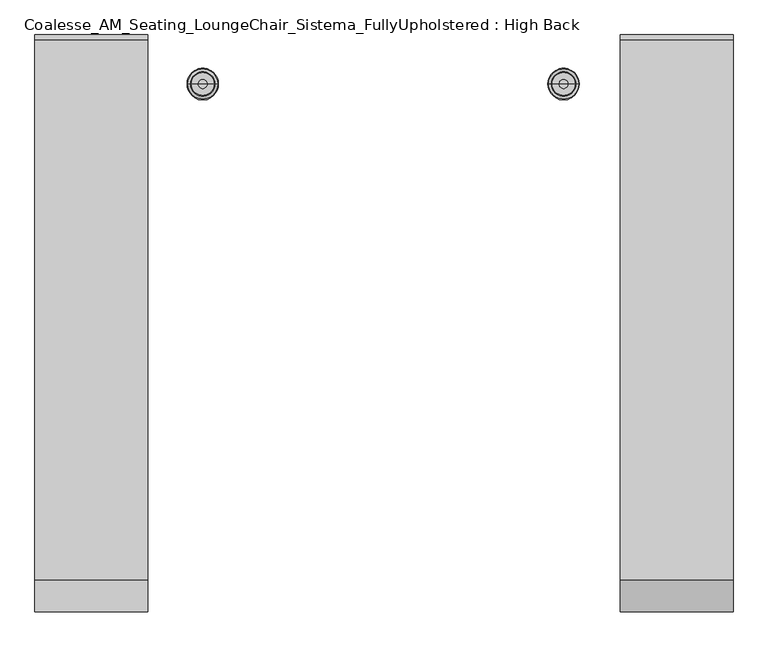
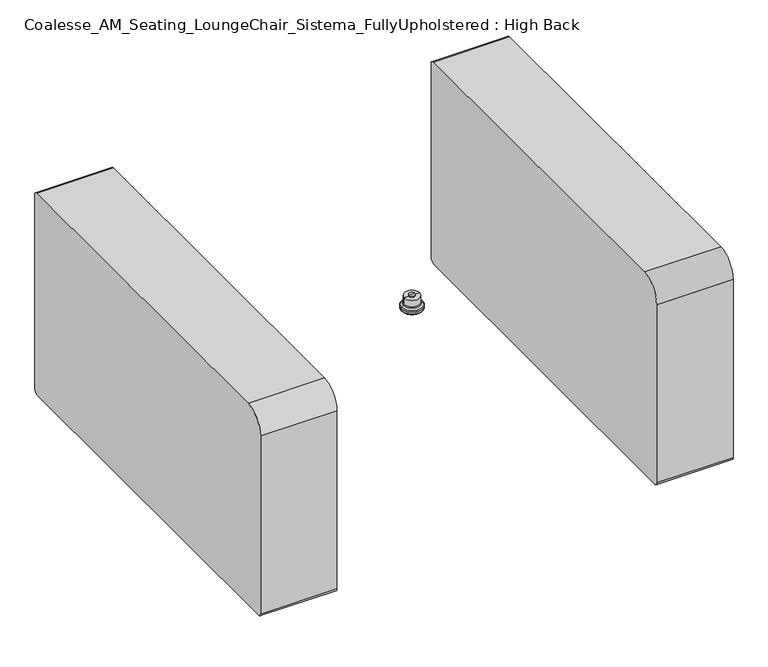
"""IFC4 building model written with IfcOpenShell, lengths in millimetres: furniture geometry, Coalesse_AM_Seating_LoungeChair_Sistema_FullyUpholstered : High Back."""

from ifc_helpers import new_model, si_unit, point, frame, frame_2d, origin, place, context, project, spatial, polyline, circle_curve, ellipse_curve, trimmed, segment, composite_curve, outline, extrude, source, transform, mapped, element, save
from ifc_brep_helpers import plane_surface, cylinder_surface, revolved_surface, advanced_brep


def coalesse_am_seating_loungechair_sistema_fullyupholstered_27f036f4(model_context):
    return source(origin(), model_context, "Body", "SolidModel", [
        advanced_brep(
        [(439.713605, 376.5697714, 32.0111214), (439.713605, 376.5697714, 16.5557542), (475.9872145, 376.5697714, 16.5557542), (475.9872145, 376.5697714, 32.0111214), (438.4199245, 376.5697714, 14.0167632), (477.2808951, 376.5697714, 14.0167632), (434.0479382, 376.5697714, 10.8824382), (481.6528813, 376.5697714, 10.8824382), (432.8617219, 376.5697714, 8.4680454), (482.8390977, 376.5697714, 8.4680454), (432.8617219, 376.5697714, 3.1081764), (482.8390977, 376.5697714, 3.1081764), (436.4580964, 376.5697714, 0.0), (479.2427231, 376.5697714, 0.0), (457.8504098, 376.5697714, 0.0), (457.8504098, 376.5697714, 34.4679682), (450.7356308, 376.5697714, 34.4679682), (464.9651888, 376.5697714, 34.4679682), (450.7356308, 376.5697714, 32.0111214), (464.9651888, 376.5697714, 32.0111214)],
        [
            (0, 1),
            (1, 2, circle_curve(frame((457.8504098, 376.5697714, 16.5557542), z_axis=(0.0, 0.0, 1.0), x_axis=(1.0, 0.0, 0.0)), 18.1368048)),
            (2, 3),
            (3, 0, circle_curve(frame((457.8504098, 376.5697714, 32.0111214), z_axis=(0.0, 0.0, -1.0), x_axis=(1.0, 0.0, 0.0)), 18.1368048)),
            (2, 1, circle_curve(frame((457.8504098, 376.5697714, 16.5557542), z_axis=(0.0, 0.0, 1.0), x_axis=(1.0, 0.0, 0.0)), 18.1368048)),
            (0, 3, circle_curve(frame((457.8504098, 376.5697714, 32.0111214), z_axis=(0.0, 0.0, -1.0), x_axis=(1.0, 0.0, 0.0)), 18.1368048)),
            (1, 4),
            (4, 5, circle_curve(frame((457.8504098, 376.5697714, 14.0167632), z_axis=(0.0, 0.0, 1.0), x_axis=(1.0, 0.0, 0.0)), 19.4304853)),
            (5, 2),
            (5, 4, circle_curve(frame((457.8504098, 376.5697714, 14.0167632), z_axis=(0.0, 0.0, 1.0), x_axis=(1.0, 0.0, 0.0)), 19.4304853)),
            (4, 6, circle_curve(frame((480.4018948, 376.5697714, -49.1591113), z_axis=(0.0, -1.0, 0.0), x_axis=(1.0, 0.0, 0.0)), 75.8529957)),
            (6, 7, circle_curve(frame((457.8504098, 376.5697714, 10.8824382), z_axis=(0.0, 0.0, 1.0), x_axis=(1.0, 0.0, 0.0)), 23.8024715)),
            (7, 5, circle_curve(frame((435.2989247, 376.5697714, -49.1591113), z_axis=(0.0, -1.0, 0.0), x_axis=(-1.0, 0.0, 0.0)), 75.8529957)),
            (7, 6, circle_curve(frame((457.8504098, 376.5697714, 10.8824382), z_axis=(0.0, 0.0, 1.0), x_axis=(1.0, 0.0, 0.0)), 23.8024715)),
            (6, 8, circle_curve(frame((435.9119251, 376.5697714, 8.4680454), z_axis=(0.0, -1.0, 0.0), x_axis=(1.0, 0.0, 0.0)), 3.0502032)),
            (8, 9, circle_curve(frame((457.8504098, 376.5697714, 8.4680454), z_axis=(0.0, 0.0, 1.0), x_axis=(1.0, 0.0, 0.0)), 24.9886879)),
            (9, 7, circle_curve(frame((479.7888944, 376.5697714, 8.4680454), z_axis=(0.0, -1.0, 0.0), x_axis=(-1.0, 0.0, 0.0)), 3.0502032)),
            (9, 8, circle_curve(frame((457.8504098, 376.5697714, 8.4680454), z_axis=(0.0, 0.0, 1.0), x_axis=(1.0, 0.0, 0.0)), 24.9886879)),
            (8, 10),
            (10, 11, circle_curve(frame((457.8504098, 376.5697714, 3.1081764), z_axis=(0.0, 0.0, 1.0), x_axis=(1.0, 0.0, 0.0)), 24.9886879)),
            (11, 9),
            (11, 10, circle_curve(frame((457.8504098, 376.5697714, 3.1081764), z_axis=(0.0, 0.0, 1.0), x_axis=(1.0, 0.0, 0.0)), 24.9886879)),
            (10, 12, circle_curve(frame((436.4580964, 376.5697714, 3.634715), z_axis=(0.0, -1.0, 0.0), x_axis=(1.0, 0.0, 0.0)), 3.634715)),
            (12, 13, circle_curve(frame((457.8504098, 376.5697714, 0.0), z_axis=(0.0, 0.0, 1.0), x_axis=(1.0, 0.0, 0.0)), 21.3923133)),
            (13, 11, circle_curve(frame((479.2427231, 376.5697714, 3.634715), z_axis=(0.0, -1.0, 0.0), x_axis=(-1.0, 0.0, 0.0)), 3.634715)),
            (13, 12, circle_curve(frame((457.8504098, 376.5697714, 0.0), z_axis=(0.0, 0.0, 1.0), x_axis=(1.0, 0.0, 0.0)), 21.3923133)),
            (12, 14),
            (14, 13),
            (15, 16),
            (16, 17, circle_curve(frame((457.8504098, 376.5697714, 34.4679682), z_axis=(0.0, 0.0, 1.0), x_axis=(1.0, 0.0, 0.0)), 7.114779)),
            (17, 15),
            (17, 16, circle_curve(frame((457.8504098, 376.5697714, 34.4679682), z_axis=(0.0, 0.0, 1.0), x_axis=(1.0, 0.0, 0.0)), 7.114779)),
            (16, 18),
            (18, 19, circle_curve(frame((457.8504098, 376.5697714, 32.0111214), z_axis=(0.0, 0.0, 1.0), x_axis=(1.0, 0.0, 0.0)), 7.114779)),
            (19, 17),
            (19, 18, circle_curve(frame((457.8504098, 376.5697714, 32.0111214), z_axis=(0.0, 0.0, 1.0), x_axis=(1.0, 0.0, 0.0)), 7.114779)),
            (18, 0),
            (3, 19),
        ],
        [
            cylinder_surface(frame((457.8504098, 376.5697714, 22.0491407), z_axis=(0.0, 0.0, 1.0), x_axis=(1.0, 0.0, 0.0)), 18.1368048),
            revolved_surface(polyline([(477.2808951, 376.5697714, 14.0167632), (475.9872145, 376.5697714, 16.5557542)]), (457.8504098, 376.5697714, 22.0491407), (0.0, 0.0, 1.0)),
            revolved_surface(trimmed(ellipse_curve(frame((435.2989247, 376.5697714, -49.1591113), z_axis=(0.0, -1.0, 0.0), x_axis=(-1.0, 0.0, 0.0)), 75.8529957, 75.8529957), [point((481.6528813, 376.5697714, 10.8824382))], [point((477.2808951, 376.5697714, 14.0167632))], True, "CARTESIAN"), (457.8504098, 376.5697714, 22.0491407), (0.0, 0.0, 1.0)),
            revolved_surface(trimmed(ellipse_curve(frame((479.7888944, 376.5697714, 8.4680454), z_axis=(0.0, -1.0, 0.0), x_axis=(-1.0, 0.0, 0.0)), 3.0502032, 3.0502032), [point((482.8390977, 376.5697714, 8.4680454))], [point((481.6528813, 376.5697714, 10.8824382))], True, "CARTESIAN"), (457.8504098, 376.5697714, 22.0491407), (0.0, 0.0, 1.0)),
            cylinder_surface(frame((457.8504098, 376.5697714, 22.0491407), z_axis=(0.0, 0.0, 1.0), x_axis=(1.0, 0.0, 0.0)), 24.9886879),
            revolved_surface(trimmed(ellipse_curve(frame((479.2427231, 376.5697714, 3.634715), z_axis=(0.0, -1.0, 0.0), x_axis=(-1.0, 0.0, 0.0)), 3.634715, 3.634715), [point((479.2427231, 376.5697714, 0.0))], [point((482.8390977, 376.5697714, 3.1081764))], True, "CARTESIAN"), (457.8504098, 376.5697714, 22.0491407), (0.0, 0.0, 1.0)),
            plane_surface(frame((457.8504098, 376.5697714, 0.0), z_axis=(0.0, 0.0, -1.0), x_axis=(1.0, 0.0, 0.0))),
            plane_surface(frame((457.8504098, 376.5697714, 34.4679682), z_axis=(0.0, 0.0, 1.0), x_axis=(1.0, 0.0, 0.0))),
            cylinder_surface(frame((457.8504098, 376.5697714, 22.0491407), z_axis=(0.0, 0.0, 1.0), x_axis=(1.0, 0.0, 0.0)), 7.114779),
            plane_surface(frame((457.8504098, 376.5697714, 32.0111214), z_axis=(0.0, 0.0, 1.0), x_axis=(1.0, 0.0, 0.0))),
        ],
        [
            (0, [[1, 2, 3, 4]]),
            (0, [[-3, 5, -1, 6]]),
            (1, [[7, 8, 9, -2]]),
            (1, [[-9, 10, -7, -5]]),
            (2, [[11, 12, 13, -8]]),
            (2, [[-13, 14, -11, -10]]),
            (3, [[15, 16, 17, -12]]),
            (3, [[-17, 18, -15, -14]]),
            (4, [[19, 20, 21, -16]]),
            (4, [[-21, 22, -19, -18]]),
            (5, [[23, 24, 25, -20]]),
            (5, [[-25, 26, -23, -22]]),
            (6, [[27, 28, -24]]),
            (6, [[-28, -27, -26]]),
            (7, [[29, 30, 31]]),
            (7, [[-31, 32, -29]]),
            (8, [[33, 34, 35, -30]]),
            (8, [[-35, 36, -33, -32]]),
            (9, [[37, -4, 38, -34]]),
            (9, [[-38, -6, -37, -36]]),
        ],
    ),
        advanced_brep(
        [(439.713605, -359.8207817, 16.5557542), (439.713605, -359.8207817, 32.0111214), (475.9872145, -359.8207817, 32.0111214), (475.9872145, -359.8207817, 16.5557542), (438.4199245, -359.8207817, 14.0167632), (477.2808951, -359.8207817, 14.0167632), (434.0479382, -359.8207817, 10.8824382), (481.6528813, -359.8207817, 10.8824382), (432.8617219, -359.8207817, 8.4680454), (482.8390977, -359.8207817, 8.4680454), (432.8617219, -359.8207817, 3.1081764), (482.8390977, -359.8207817, 3.1081764), (436.4580964, -359.8207817, 0.0), (479.2427231, -359.8207817, 0.0), (457.8504098, -359.8207817, 0.0), (450.7356308, -359.8207817, 34.4679682), (457.8504098, -359.8207817, 34.4679682), (464.9651888, -359.8207817, 34.4679682), (450.7356308, -359.8207817, 32.0111214), (464.9651888, -359.8207817, 32.0111214)],
        [
            (0, 1),
            (1, 2, circle_curve(frame((457.8504098, -359.8207817, 32.0111214), z_axis=(0.0, 0.0, -1.0), x_axis=(1.0, 0.0, 0.0)), 18.1368048)),
            (2, 3),
            (3, 0, circle_curve(frame((457.8504098, -359.8207817, 16.5557542), z_axis=(0.0, 0.0, 1.0), x_axis=(1.0, 0.0, 0.0)), 18.1368048)),
            (2, 1, circle_curve(frame((457.8504098, -359.8207817, 32.0111214), z_axis=(0.0, 0.0, -1.0), x_axis=(1.0, 0.0, 0.0)), 18.1368048)),
            (0, 3, circle_curve(frame((457.8504098, -359.8207817, 16.5557542), z_axis=(0.0, 0.0, 1.0), x_axis=(1.0, 0.0, 0.0)), 18.1368048)),
            (4, 0),
            (3, 5),
            (5, 4, circle_curve(frame((457.8504098, -359.8207817, 14.0167632), z_axis=(0.0, 0.0, 1.0), x_axis=(1.0, 0.0, 0.0)), 19.4304853)),
            (4, 5, circle_curve(frame((457.8504098, -359.8207817, 14.0167632), z_axis=(0.0, 0.0, 1.0), x_axis=(1.0, 0.0, 0.0)), 19.4304853)),
            (6, 4, circle_curve(frame((480.4018948, -359.8207817, -49.1591113), z_axis=(0.0, 1.0, 0.0), x_axis=(1.0, 0.0, 0.0)), 75.8529957)),
            (5, 7, circle_curve(frame((435.2989247, -359.8207817, -49.1591113), z_axis=(0.0, 1.0, 0.0), x_axis=(-1.0, 0.0, 0.0)), 75.8529957)),
            (7, 6, circle_curve(frame((457.8504098, -359.8207817, 10.8824382), z_axis=(0.0, 0.0, 1.0), x_axis=(1.0, 0.0, 0.0)), 23.8024715)),
            (6, 7, circle_curve(frame((457.8504098, -359.8207817, 10.8824382), z_axis=(0.0, 0.0, 1.0), x_axis=(1.0, 0.0, 0.0)), 23.8024715)),
            (8, 6, circle_curve(frame((435.9119251, -359.8207817, 8.4680454), z_axis=(0.0, 1.0, 0.0), x_axis=(1.0, 0.0, 0.0)), 3.0502032)),
            (7, 9, circle_curve(frame((479.7888944, -359.8207817, 8.4680454), z_axis=(0.0, 1.0, 0.0), x_axis=(-1.0, 0.0, 0.0)), 3.0502032)),
            (9, 8, circle_curve(frame((457.8504098, -359.8207817, 8.4680454), z_axis=(0.0, 0.0, 1.0), x_axis=(1.0, 0.0, 0.0)), 24.9886879)),
            (8, 9, circle_curve(frame((457.8504098, -359.8207817, 8.4680454), z_axis=(0.0, 0.0, 1.0), x_axis=(1.0, 0.0, 0.0)), 24.9886879)),
            (10, 8),
            (9, 11),
            (11, 10, circle_curve(frame((457.8504098, -359.8207817, 3.1081764), z_axis=(0.0, 0.0, 1.0), x_axis=(1.0, 0.0, 0.0)), 24.9886879)),
            (10, 11, circle_curve(frame((457.8504098, -359.8207817, 3.1081764), z_axis=(0.0, 0.0, 1.0), x_axis=(1.0, 0.0, 0.0)), 24.9886879)),
            (12, 10, circle_curve(frame((436.4580964, -359.8207817, 3.634715), z_axis=(0.0, 1.0, 0.0), x_axis=(1.0, 0.0, 0.0)), 3.634715)),
            (11, 13, circle_curve(frame((479.2427231, -359.8207817, 3.634715), z_axis=(0.0, 1.0, 0.0), x_axis=(-1.0, 0.0, 0.0)), 3.634715)),
            (13, 12, circle_curve(frame((457.8504098, -359.8207817, 0.0), z_axis=(0.0, 0.0, 1.0), x_axis=(1.0, 0.0, 0.0)), 21.3923133)),
            (12, 13, circle_curve(frame((457.8504098, -359.8207817, 0.0), z_axis=(0.0, 0.0, 1.0), x_axis=(1.0, 0.0, 0.0)), 21.3923133)),
            (14, 12),
            (13, 14),
            (15, 16),
            (16, 17),
            (17, 15, circle_curve(frame((457.8504098, -359.8207817, 34.4679682), z_axis=(0.0, 0.0, 1.0), x_axis=(1.0, 0.0, 0.0)), 7.114779)),
            (15, 17, circle_curve(frame((457.8504098, -359.8207817, 34.4679682), z_axis=(0.0, 0.0, 1.0), x_axis=(1.0, 0.0, 0.0)), 7.114779)),
            (18, 15),
            (17, 19),
            (19, 18, circle_curve(frame((457.8504098, -359.8207817, 32.0111214), z_axis=(0.0, 0.0, 1.0), x_axis=(1.0, 0.0, 0.0)), 7.114779)),
            (18, 19, circle_curve(frame((457.8504098, -359.8207817, 32.0111214), z_axis=(0.0, 0.0, 1.0), x_axis=(1.0, 0.0, 0.0)), 7.114779)),
            (1, 18),
            (19, 2),
        ],
        [
            cylinder_surface(frame((457.8504098, -359.8207817, 22.0491407), z_axis=(0.0, 0.0, -1.0), x_axis=(1.0, 0.0, 0.0)), 18.1368048),
            revolved_surface(polyline([(475.9872145, -359.8207817, 16.5557542), (477.2808951, -359.8207817, 14.0167632)]), (457.8504098, -359.8207817, 22.0491407), (0.0, 0.0, -1.0)),
            revolved_surface(trimmed(ellipse_curve(frame((435.2989247, -359.8207817, -49.1591113), z_axis=(0.0, 1.0, 0.0), x_axis=(-1.0, 0.0, 0.0)), 75.8529957, 75.8529957), [point((477.2808951, -359.8207817, 14.0167632))], [point((481.6528813, -359.8207817, 10.8824382))], True, "CARTESIAN"), (457.8504098, -359.8207817, 22.0491407), (0.0, 0.0, -1.0)),
            revolved_surface(trimmed(ellipse_curve(frame((479.7888944, -359.8207817, 8.4680454), z_axis=(0.0, 1.0, 0.0), x_axis=(-1.0, 0.0, 0.0)), 3.0502032, 3.0502032), [point((481.6528813, -359.8207817, 10.8824382))], [point((482.8390977, -359.8207817, 8.4680454))], True, "CARTESIAN"), (457.8504098, -359.8207817, 22.0491407), (0.0, 0.0, -1.0)),
            cylinder_surface(frame((457.8504098, -359.8207817, 22.0491407), z_axis=(0.0, 0.0, -1.0), x_axis=(1.0, 0.0, 0.0)), 24.9886879),
            revolved_surface(trimmed(ellipse_curve(frame((479.2427231, -359.8207817, 3.634715), z_axis=(0.0, 1.0, 0.0), x_axis=(-1.0, 0.0, 0.0)), 3.634715, 3.634715), [point((482.8390977, -359.8207817, 3.1081764))], [point((479.2427231, -359.8207817, 0.0))], True, "CARTESIAN"), (457.8504098, -359.8207817, 22.0491407), (0.0, 0.0, -1.0)),
            plane_surface(frame((457.8504098, -359.8207817, 0.0), z_axis=(0.0, 0.0, -1.0), x_axis=(1.0, 0.0, 0.0))),
            plane_surface(frame((457.8504098, -359.8207817, 34.4679682), z_axis=(0.0, 0.0, 1.0), x_axis=(1.0, 0.0, 0.0))),
            cylinder_surface(frame((457.8504098, -359.8207817, 22.0491407), z_axis=(0.0, 0.0, -1.0), x_axis=(1.0, 0.0, 0.0)), 7.114779),
            plane_surface(frame((457.8504098, -359.8207817, 32.0111214), z_axis=(0.0, 0.0, 1.0), x_axis=(1.0, 0.0, 0.0))),
        ],
        [
            (0, [[1, 2, 3, 4]]),
            (0, [[-3, 5, -1, 6]]),
            (1, [[7, -4, 8, 9]]),
            (1, [[-8, -6, -7, 10]]),
            (2, [[11, -9, 12, 13]]),
            (2, [[-12, -10, -11, 14]]),
            (3, [[15, -13, 16, 17]]),
            (3, [[-16, -14, -15, 18]]),
            (4, [[19, -17, 20, 21]]),
            (4, [[-20, -18, -19, 22]]),
            (5, [[23, -21, 24, 25]]),
            (5, [[-24, -22, -23, 26]]),
            (6, [[27, -25, 28]]),
            (6, [[-28, -26, -27]]),
            (7, [[29, 30, 31]]),
            (7, [[-30, -29, 32]]),
            (8, [[33, -31, 34, 35]]),
            (8, [[-34, -32, -33, 36]]),
            (9, [[37, -35, 38, -2]]),
            (9, [[-38, -36, -37, -5]]),
        ],
    ),
        extrude(outline(composite_curve([segment(polyline([(-461.2704381, 44.1353341), (-461.2704381, 487.0244726)]), True, "CONTINUOUS"), segment(trimmed(circle_curve(frame_2d((-410.4704381, 487.0244726)), 50.8), [point((-461.2704381, 487.0244726))], [point((-410.4704381, 537.8244726))], False, "CARTESIAN"), True, "CONTINUOUS"), segment(polyline([(-410.4704381, 537.8244726), (450.1139321, 537.8244726)]), True, "CONTINUOUS"), segment(trimmed(circle_curve(frame_2d((450.1139321, 530.2044726)), 7.62), [point((450.1139321, 537.8244726))], [point((457.7339321, 530.2044726))], False, "CARTESIAN"), True, "CONTINUOUS"), segment(polyline([(457.7339321, 530.2044726), (457.7339321, 49.2153341)]), True, "CONTINUOUS"), segment(trimmed(circle_curve(frame_2d((445.0339321, 49.2153341)), 12.7), [point((457.7339321, 49.2153341))], [point((445.0339321, 36.5153341))], False, "CARTESIAN"), True, "CONTINUOUS"), segment(polyline([(445.0339321, 36.5153341), (-453.6504381, 36.5153341)]), True, "CONTINUOUS"), segment(trimmed(circle_curve(frame_2d((-453.6504381, 44.1353341)), 7.62), [point((-453.6504381, 36.5153341))], [point((-461.2704381, 44.1353341))], False, "CARTESIAN"), True, "CONTINUOUS")], self_intersect=False)), frame((377.4828388, 0.0, 0.0), z_axis=(1.0, 0.0, 0.0), x_axis=(0.0, 1.0, 0.0)), (0.0, 0.0, 1.0), 179.5663651),
        extrude(outline(composite_curve([segment(polyline([(-461.2704381, 44.1353341), (-461.2704381, 487.0244726)]), True, "CONTINUOUS"), segment(trimmed(circle_curve(frame_2d((-410.4704381, 487.0244726)), 50.8), [point((-461.2704381, 487.0244726))], [point((-410.4704381, 537.8244726))], False, "CARTESIAN"), True, "CONTINUOUS"), segment(polyline([(-410.4704381, 537.8244726), (450.1139321, 537.8244726)]), True, "CONTINUOUS"), segment(trimmed(circle_curve(frame_2d((450.1139321, 530.2044726)), 7.62), [point((450.1139321, 537.8244726))], [point((457.7339321, 530.2044726))], False, "CARTESIAN"), True, "CONTINUOUS"), segment(polyline([(457.7339321, 530.2044726), (457.7339321, 49.2153341)]), True, "CONTINUOUS"), segment(trimmed(circle_curve(frame_2d((445.0339321, 49.2153341)), 12.7), [point((457.7339321, 49.2153341))], [point((445.0339321, 36.5153341))], False, "CARTESIAN"), True, "CONTINUOUS"), segment(polyline([(445.0339321, 36.5153341), (-453.6504381, 36.5153341)]), True, "CONTINUOUS"), segment(trimmed(circle_curve(frame_2d((-453.6504381, 44.1353341)), 7.62), [point((-453.6504381, 36.5153341))], [point((-461.2704381, 44.1353341))], False, "CARTESIAN"), True, "CONTINUOUS")], self_intersect=False)), frame((377.4828388, 0.0, 0.0), z_axis=(1.0, 0.0, 0.0), x_axis=(0.0, 1.0, 0.0)), (0.0, 0.0, 1.0), 179.5663651),
        advanced_brep(
        [(-437.0342435, 376.5697714, 32.0111214), (-473.307853, 376.5697714, 32.0111214), (-473.307853, 376.5697714, 16.5557542), (-437.0342435, 376.5697714, 16.5557542), (-474.6015336, 376.5697714, 14.0167632), (-435.740563, 376.5697714, 14.0167632), (-478.9735198, 376.5697714, 10.8824382), (-431.3685767, 376.5697714, 10.8824382), (-480.1597362, 376.5697714, 8.4680454), (-430.1823604, 376.5697714, 8.4680454), (-480.1597362, 376.5697714, 3.1081764), (-430.1823604, 376.5697714, 3.1081764), (-476.5633616, 376.5697714, 0.0), (-433.7787349, 376.5697714, 0.0), (-455.1710483, 376.5697714, 0.0), (-455.1710483, 376.5697714, 34.4679682), (-462.2858273, 376.5697714, 34.4679682), (-448.0562693, 376.5697714, 34.4679682), (-462.2858273, 376.5697714, 32.0111214), (-448.0562693, 376.5697714, 32.0111214)],
        [
            (0, 1, circle_curve(frame((-455.1710483, 376.5697714, 32.0111214), z_axis=(0.0, 0.0, -1.0), x_axis=(-1.0, 0.0, 0.0)), 18.1368048)),
            (1, 2),
            (2, 3, circle_curve(frame((-455.1710483, 376.5697714, 16.5557542), z_axis=(0.0, 0.0, 1.0), x_axis=(-1.0, 0.0, 0.0)), 18.1368048)),
            (3, 0),
            (1, 0, circle_curve(frame((-455.1710483, 376.5697714, 32.0111214), z_axis=(0.0, 0.0, -1.0), x_axis=(-1.0, 0.0, 0.0)), 18.1368048)),
            (3, 2, circle_curve(frame((-455.1710483, 376.5697714, 16.5557542), z_axis=(0.0, 0.0, 1.0), x_axis=(-1.0, 0.0, 0.0)), 18.1368048)),
            (2, 4),
            (4, 5, circle_curve(frame((-455.1710483, 376.5697714, 14.0167632), z_axis=(0.0, 0.0, 1.0), x_axis=(-1.0, 0.0, 0.0)), 19.4304853)),
            (5, 3),
            (5, 4, circle_curve(frame((-455.1710483, 376.5697714, 14.0167632), z_axis=(0.0, 0.0, 1.0), x_axis=(-1.0, 0.0, 0.0)), 19.4304853)),
            (4, 6, circle_curve(frame((-432.6195632, 376.5697714, -49.1591113), z_axis=(0.0, -1.0, 0.0), x_axis=(1.0, 0.0, 0.0)), 75.8529957)),
            (6, 7, circle_curve(frame((-455.1710483, 376.5697714, 10.8824382), z_axis=(0.0, 0.0, 1.0), x_axis=(-1.0, 0.0, 0.0)), 23.8024715)),
            (7, 5, circle_curve(frame((-477.7225333, 376.5697714, -49.1591113), z_axis=(0.0, -1.0, 0.0), x_axis=(-1.0, 0.0, 0.0)), 75.8529957)),
            (7, 6, circle_curve(frame((-455.1710483, 376.5697714, 10.8824382), z_axis=(0.0, 0.0, 1.0), x_axis=(-1.0, 0.0, 0.0)), 23.8024715)),
            (6, 8, circle_curve(frame((-477.109533, 376.5697714, 8.4680454), z_axis=(0.0, -1.0, 0.0), x_axis=(1.0, 0.0, 0.0)), 3.0502032)),
            (8, 9, circle_curve(frame((-455.1710483, 376.5697714, 8.4680454), z_axis=(0.0, 0.0, 1.0), x_axis=(-1.0, 0.0, 0.0)), 24.9886879)),
            (9, 7, circle_curve(frame((-433.2325636, 376.5697714, 8.4680454), z_axis=(0.0, -1.0, 0.0), x_axis=(-1.0, 0.0, 0.0)), 3.0502032)),
            (9, 8, circle_curve(frame((-455.1710483, 376.5697714, 8.4680454), z_axis=(0.0, 0.0, 1.0), x_axis=(-1.0, 0.0, 0.0)), 24.9886879)),
            (8, 10),
            (10, 11, circle_curve(frame((-455.1710483, 376.5697714, 3.1081764), z_axis=(0.0, 0.0, 1.0), x_axis=(-1.0, 0.0, 0.0)), 24.9886879)),
            (11, 9),
            (11, 10, circle_curve(frame((-455.1710483, 376.5697714, 3.1081764), z_axis=(0.0, 0.0, 1.0), x_axis=(-1.0, 0.0, 0.0)), 24.9886879)),
            (10, 12, circle_curve(frame((-476.5633616, 376.5697714, 3.634715), z_axis=(0.0, -1.0, 0.0), x_axis=(1.0, 0.0, 0.0)), 3.634715)),
            (12, 13, circle_curve(frame((-455.1710483, 376.5697714, 0.0), z_axis=(0.0, 0.0, 1.0), x_axis=(-1.0, 0.0, 0.0)), 21.3923133)),
            (13, 11, circle_curve(frame((-433.7787349, 376.5697714, 3.634715), z_axis=(0.0, -1.0, 0.0), x_axis=(-1.0, 0.0, 0.0)), 3.634715)),
            (13, 12, circle_curve(frame((-455.1710483, 376.5697714, 0.0), z_axis=(0.0, 0.0, 1.0), x_axis=(-1.0, 0.0, 0.0)), 21.3923133)),
            (12, 14),
            (14, 13),
            (15, 16),
            (16, 17, circle_curve(frame((-455.1710483, 376.5697714, 34.4679682), z_axis=(0.0, 0.0, 1.0), x_axis=(-1.0, 0.0, 0.0)), 7.114779)),
            (17, 15),
            (17, 16, circle_curve(frame((-455.1710483, 376.5697714, 34.4679682), z_axis=(0.0, 0.0, 1.0), x_axis=(-1.0, 0.0, 0.0)), 7.114779)),
            (16, 18),
            (18, 19, circle_curve(frame((-455.1710483, 376.5697714, 32.0111214), z_axis=(0.0, 0.0, 1.0), x_axis=(-1.0, 0.0, 0.0)), 7.114779)),
            (19, 17),
            (19, 18, circle_curve(frame((-455.1710483, 376.5697714, 32.0111214), z_axis=(0.0, 0.0, 1.0), x_axis=(-1.0, 0.0, 0.0)), 7.114779)),
            (18, 1),
            (0, 19),
        ],
        [
            cylinder_surface(frame((-455.1710483, 376.5697714, 22.0491407), z_axis=(0.0, 0.0, 1.0), x_axis=(-1.0, 0.0, 0.0)), 18.1368048),
            revolved_surface(polyline([(-474.6015336, 376.5697714, 14.0167632), (-473.307853, 376.5697714, 16.5557542)]), (-455.1710483, 376.5697714, 22.0491407), (0.0, 0.0, 1.0)),
            revolved_surface(trimmed(ellipse_curve(frame((-432.6195632, 376.5697714, -49.1591113), z_axis=(0.0, 1.0, 0.0), x_axis=(1.0, 0.0, 0.0)), 75.8529957, 75.8529957), [point((-478.9735198, 376.5697714, 10.8824382))], [point((-474.6015336, 376.5697714, 14.0167632))], True, "CARTESIAN"), (-455.1710483, 376.5697714, 22.0491407), (0.0, 0.0, 1.0)),
            revolved_surface(trimmed(ellipse_curve(frame((-477.109533, 376.5697714, 8.4680454), z_axis=(0.0, 1.0, 0.0), x_axis=(1.0, 0.0, 0.0)), 3.0502032, 3.0502032), [point((-480.1597362, 376.5697714, 8.4680454))], [point((-478.9735198, 376.5697714, 10.8824382))], True, "CARTESIAN"), (-455.1710483, 376.5697714, 22.0491407), (0.0, 0.0, 1.0)),
            cylinder_surface(frame((-455.1710483, 376.5697714, 22.0491407), z_axis=(0.0, 0.0, 1.0), x_axis=(-1.0, 0.0, 0.0)), 24.9886879),
            revolved_surface(trimmed(ellipse_curve(frame((-476.5633616, 376.5697714, 3.634715), z_axis=(0.0, 1.0, 0.0), x_axis=(1.0, 0.0, 0.0)), 3.634715, 3.634715), [point((-476.5633616, 376.5697714, 0.0))], [point((-480.1597362, 376.5697714, 3.1081764))], True, "CARTESIAN"), (-455.1710483, 376.5697714, 22.0491407), (0.0, 0.0, 1.0)),
            plane_surface(frame((-455.1710483, 376.5697714, 0.0), z_axis=(0.0, 0.0, -1.0), x_axis=(-1.0, 0.0, 0.0))),
            plane_surface(frame((-455.1710483, 376.5697714, 34.4679682), z_axis=(0.0, 0.0, 1.0), x_axis=(-1.0, 0.0, 0.0))),
            cylinder_surface(frame((-455.1710483, 376.5697714, 22.0491407), z_axis=(0.0, 0.0, 1.0), x_axis=(-1.0, 0.0, 0.0)), 7.114779),
            plane_surface(frame((-455.1710483, 376.5697714, 32.0111214), z_axis=(0.0, 0.0, 1.0), x_axis=(-1.0, 0.0, 0.0))),
        ],
        [
            (0, [[1, 2, 3, 4]]),
            (0, [[5, -4, 6, -2]]),
            (1, [[-3, 7, 8, 9]]),
            (1, [[-6, -9, 10, -7]]),
            (2, [[-8, 11, 12, 13]]),
            (2, [[-10, -13, 14, -11]]),
            (3, [[-12, 15, 16, 17]]),
            (3, [[-14, -17, 18, -15]]),
            (4, [[-16, 19, 20, 21]]),
            (4, [[-18, -21, 22, -19]]),
            (5, [[-20, 23, 24, 25]]),
            (5, [[-22, -25, 26, -23]]),
            (6, [[-24, 27, 28]]),
            (6, [[-26, -28, -27]]),
            (7, [[29, 30, 31]]),
            (7, [[-31, 32, -29]]),
            (8, [[-30, 33, 34, 35]]),
            (8, [[-32, -35, 36, -33]]),
            (9, [[-34, 37, -1, 38]]),
            (9, [[-36, -38, -5, -37]]),
        ],
    ),
        advanced_brep(
        [(-437.0342435, -359.8207817, 16.5557542), (-473.307853, -359.8207817, 16.5557542), (-473.307853, -359.8207817, 32.0111214), (-437.0342435, -359.8207817, 32.0111214), (-435.740563, -359.8207817, 14.0167632), (-474.6015336, -359.8207817, 14.0167632), (-431.3685767, -359.8207817, 10.8824382), (-478.9735198, -359.8207817, 10.8824382), (-430.1823604, -359.8207817, 8.4680454), (-480.1597362, -359.8207817, 8.4680454), (-430.1823604, -359.8207817, 3.1081764), (-480.1597362, -359.8207817, 3.1081764), (-433.7787349, -359.8207817, 0.0), (-476.5633616, -359.8207817, 0.0), (-455.1710483, -359.8207817, 0.0), (-448.0562693, -359.8207817, 34.4679682), (-462.2858273, -359.8207817, 34.4679682), (-455.1710483, -359.8207817, 34.4679682), (-448.0562693, -359.8207817, 32.0111214), (-462.2858273, -359.8207817, 32.0111214)],
        [
            (0, 1, circle_curve(frame((-455.1710483, -359.8207817, 16.5557542), z_axis=(0.0, 0.0, 1.0), x_axis=(-1.0, 0.0, 0.0)), 18.1368048)),
            (1, 2),
            (2, 3, circle_curve(frame((-455.1710483, -359.8207817, 32.0111214), z_axis=(0.0, 0.0, -1.0), x_axis=(-1.0, 0.0, 0.0)), 18.1368048)),
            (3, 0),
            (1, 0, circle_curve(frame((-455.1710483, -359.8207817, 16.5557542), z_axis=(0.0, 0.0, 1.0), x_axis=(-1.0, 0.0, 0.0)), 18.1368048)),
            (3, 2, circle_curve(frame((-455.1710483, -359.8207817, 32.0111214), z_axis=(0.0, 0.0, -1.0), x_axis=(-1.0, 0.0, 0.0)), 18.1368048)),
            (4, 5, circle_curve(frame((-455.1710483, -359.8207817, 14.0167632), z_axis=(0.0, 0.0, 1.0), x_axis=(-1.0, 0.0, 0.0)), 19.4304853)),
            (5, 1),
            (0, 4),
            (5, 4, circle_curve(frame((-455.1710483, -359.8207817, 14.0167632), z_axis=(0.0, 0.0, 1.0), x_axis=(-1.0, 0.0, 0.0)), 19.4304853)),
            (6, 7, circle_curve(frame((-455.1710483, -359.8207817, 10.8824382), z_axis=(0.0, 0.0, 1.0), x_axis=(-1.0, 0.0, 0.0)), 23.8024715)),
            (7, 5, circle_curve(frame((-432.6195632, -359.8207817, -49.1591113), z_axis=(0.0, 1.0, 0.0), x_axis=(1.0, 0.0, 0.0)), 75.8529957)),
            (4, 6, circle_curve(frame((-477.7225333, -359.8207817, -49.1591113), z_axis=(0.0, 1.0, 0.0), x_axis=(-1.0, 0.0, 0.0)), 75.8529957)),
            (7, 6, circle_curve(frame((-455.1710483, -359.8207817, 10.8824382), z_axis=(0.0, 0.0, 1.0), x_axis=(-1.0, 0.0, 0.0)), 23.8024715)),
            (8, 9, circle_curve(frame((-455.1710483, -359.8207817, 8.4680454), z_axis=(0.0, 0.0, 1.0), x_axis=(-1.0, 0.0, 0.0)), 24.9886879)),
            (9, 7, circle_curve(frame((-477.109533, -359.8207817, 8.4680454), z_axis=(0.0, 1.0, 0.0), x_axis=(1.0, 0.0, 0.0)), 3.0502032)),
            (6, 8, circle_curve(frame((-433.2325636, -359.8207817, 8.4680454), z_axis=(0.0, 1.0, 0.0), x_axis=(-1.0, 0.0, 0.0)), 3.0502032)),
            (9, 8, circle_curve(frame((-455.1710483, -359.8207817, 8.4680454), z_axis=(0.0, 0.0, 1.0), x_axis=(-1.0, 0.0, 0.0)), 24.9886879)),
            (10, 11, circle_curve(frame((-455.1710483, -359.8207817, 3.1081764), z_axis=(0.0, 0.0, 1.0), x_axis=(-1.0, 0.0, 0.0)), 24.9886879)),
            (11, 9),
            (8, 10),
            (11, 10, circle_curve(frame((-455.1710483, -359.8207817, 3.1081764), z_axis=(0.0, 0.0, 1.0), x_axis=(-1.0, 0.0, 0.0)), 24.9886879)),
            (12, 13, circle_curve(frame((-455.1710483, -359.8207817, 0.0), z_axis=(0.0, 0.0, 1.0), x_axis=(-1.0, 0.0, 0.0)), 21.3923133)),
            (13, 11, circle_curve(frame((-476.5633616, -359.8207817, 3.634715), z_axis=(0.0, 1.0, 0.0), x_axis=(1.0, 0.0, 0.0)), 3.634715)),
            (10, 12, circle_curve(frame((-433.7787349, -359.8207817, 3.634715), z_axis=(0.0, 1.0, 0.0), x_axis=(-1.0, 0.0, 0.0)), 3.634715)),
            (13, 12, circle_curve(frame((-455.1710483, -359.8207817, 0.0), z_axis=(0.0, 0.0, 1.0), x_axis=(-1.0, 0.0, 0.0)), 21.3923133)),
            (14, 13),
            (12, 14),
            (15, 16, circle_curve(frame((-455.1710483, -359.8207817, 34.4679682), z_axis=(0.0, 0.0, 1.0), x_axis=(-1.0, 0.0, 0.0)), 7.114779)),
            (16, 17),
            (17, 15),
            (16, 15, circle_curve(frame((-455.1710483, -359.8207817, 34.4679682), z_axis=(0.0, 0.0, 1.0), x_axis=(-1.0, 0.0, 0.0)), 7.114779)),
            (18, 19, circle_curve(frame((-455.1710483, -359.8207817, 32.0111214), z_axis=(0.0, 0.0, 1.0), x_axis=(-1.0, 0.0, 0.0)), 7.114779)),
            (19, 16),
            (15, 18),
            (19, 18, circle_curve(frame((-455.1710483, -359.8207817, 32.0111214), z_axis=(0.0, 0.0, 1.0), x_axis=(-1.0, 0.0, 0.0)), 7.114779)),
            (2, 19),
            (18, 3),
        ],
        [
            cylinder_surface(frame((-455.1710483, -359.8207817, 22.0491407), z_axis=(0.0, 0.0, -1.0), x_axis=(-1.0, 0.0, 0.0)), 18.1368048),
            revolved_surface(polyline([(-473.307853, -359.8207817, 16.5557542), (-474.6015336, -359.8207817, 14.0167632)]), (-455.1710483, -359.8207817, 22.0491407), (0.0, 0.0, -1.0)),
            revolved_surface(trimmed(ellipse_curve(frame((-432.6195632, -359.8207817, -49.1591113), z_axis=(0.0, -1.0, 0.0), x_axis=(1.0, 0.0, 0.0)), 75.8529957, 75.8529957), [point((-474.6015336, -359.8207817, 14.0167632))], [point((-478.9735198, -359.8207817, 10.8824382))], True, "CARTESIAN"), (-455.1710483, -359.8207817, 22.0491407), (0.0, 0.0, -1.0)),
            revolved_surface(trimmed(ellipse_curve(frame((-477.109533, -359.8207817, 8.4680454), z_axis=(0.0, -1.0, 0.0), x_axis=(1.0, 0.0, 0.0)), 3.0502032, 3.0502032), [point((-478.9735198, -359.8207817, 10.8824382))], [point((-480.1597362, -359.8207817, 8.4680454))], True, "CARTESIAN"), (-455.1710483, -359.8207817, 22.0491407), (0.0, 0.0, -1.0)),
            cylinder_surface(frame((-455.1710483, -359.8207817, 22.0491407), z_axis=(0.0, 0.0, -1.0), x_axis=(-1.0, 0.0, 0.0)), 24.9886879),
            revolved_surface(trimmed(ellipse_curve(frame((-476.5633616, -359.8207817, 3.634715), z_axis=(0.0, -1.0, 0.0), x_axis=(1.0, 0.0, 0.0)), 3.634715, 3.634715), [point((-480.1597362, -359.8207817, 3.1081764))], [point((-476.5633616, -359.8207817, 0.0))], True, "CARTESIAN"), (-455.1710483, -359.8207817, 22.0491407), (0.0, 0.0, -1.0)),
            plane_surface(frame((-455.1710483, -359.8207817, 0.0), z_axis=(0.0, 0.0, -1.0), x_axis=(-1.0, 0.0, 0.0))),
            plane_surface(frame((-455.1710483, -359.8207817, 34.4679682), z_axis=(0.0, 0.0, 1.0), x_axis=(-1.0, 0.0, 0.0))),
            cylinder_surface(frame((-455.1710483, -359.8207817, 22.0491407), z_axis=(0.0, 0.0, -1.0), x_axis=(-1.0, 0.0, 0.0)), 7.114779),
            plane_surface(frame((-455.1710483, -359.8207817, 32.0111214), z_axis=(0.0, 0.0, 1.0), x_axis=(-1.0, 0.0, 0.0))),
        ],
        [
            (0, [[1, 2, 3, 4]]),
            (0, [[5, -4, 6, -2]]),
            (1, [[7, 8, -1, 9]]),
            (1, [[10, -9, -5, -8]]),
            (2, [[11, 12, -7, 13]]),
            (2, [[14, -13, -10, -12]]),
            (3, [[15, 16, -11, 17]]),
            (3, [[18, -17, -14, -16]]),
            (4, [[19, 20, -15, 21]]),
            (4, [[22, -21, -18, -20]]),
            (5, [[23, 24, -19, 25]]),
            (5, [[26, -25, -22, -24]]),
            (6, [[27, -23, 28]]),
            (6, [[-28, -26, -27]]),
            (7, [[29, 30, 31]]),
            (7, [[32, -31, -30]]),
            (8, [[33, 34, -29, 35]]),
            (8, [[36, -35, -32, -34]]),
            (9, [[-3, 37, -33, 38]]),
            (9, [[-6, -38, -36, -37]]),
        ],
    ),
        extrude(outline(composite_curve([segment(polyline([(-461.2704381, 44.1353341), (-461.2704381, 487.0244726)]), True, "CONTINUOUS"), segment(trimmed(circle_curve(frame_2d((-410.4704381, 487.0244726)), 50.8), [point((-461.2704381, 487.0244726))], [point((-410.4704381, 537.8244726))], False, "CARTESIAN"), True, "CONTINUOUS"), segment(polyline([(-410.4704381, 537.8244726), (450.1139321, 537.8244726)]), True, "CONTINUOUS"), segment(trimmed(circle_curve(frame_2d((450.1139321, 530.2044726)), 7.62), [point((450.1139321, 537.8244726))], [point((457.7339321, 530.2044726))], False, "CARTESIAN"), True, "CONTINUOUS"), segment(polyline([(457.7339321, 530.2044726), (457.7339321, 49.2153341)]), True, "CONTINUOUS"), segment(trimmed(circle_curve(frame_2d((445.0339321, 49.2153341)), 12.7), [point((457.7339321, 49.2153341))], [point((445.0339321, 36.5153341))], False, "CARTESIAN"), True, "CONTINUOUS"), segment(polyline([(445.0339321, 36.5153341), (-453.6504381, 36.5153341)]), True, "CONTINUOUS"), segment(trimmed(circle_curve(frame_2d((-453.6504381, 44.1353341)), 7.62), [point((-453.6504381, 36.5153341))], [point((-461.2704381, 44.1353341))], False, "CARTESIAN"), True, "CONTINUOUS")], self_intersect=False)), frame((-554.3698424, 0.0, 0.0), z_axis=(1.0, 0.0, 0.0), x_axis=(0.0, 1.0, 0.0)), (0.0, 0.0, 1.0), 179.5663651),
        extrude(outline(composite_curve([segment(polyline([(-461.2704381, 44.1353341), (-461.2704381, 487.0244726)]), True, "CONTINUOUS"), segment(trimmed(circle_curve(frame_2d((-410.4704381, 487.0244726)), 50.8), [point((-461.2704381, 487.0244726))], [point((-410.4704381, 537.8244726))], False, "CARTESIAN"), True, "CONTINUOUS"), segment(polyline([(-410.4704381, 537.8244726), (450.1139321, 537.8244726)]), True, "CONTINUOUS"), segment(trimmed(circle_curve(frame_2d((450.1139321, 530.2044726)), 7.62), [point((450.1139321, 537.8244726))], [point((457.7339321, 530.2044726))], False, "CARTESIAN"), True, "CONTINUOUS"), segment(polyline([(457.7339321, 530.2044726), (457.7339321, 49.2153341)]), True, "CONTINUOUS"), segment(trimmed(circle_curve(frame_2d((445.0339321, 49.2153341)), 12.7), [point((457.7339321, 49.2153341))], [point((445.0339321, 36.5153341))], False, "CARTESIAN"), True, "CONTINUOUS"), segment(polyline([(445.0339321, 36.5153341), (-453.6504381, 36.5153341)]), True, "CONTINUOUS"), segment(trimmed(circle_curve(frame_2d((-453.6504381, 44.1353341)), 7.62), [point((-453.6504381, 36.5153341))], [point((-461.2704381, 44.1353341))], False, "CARTESIAN"), True, "CONTINUOUS")], self_intersect=False)), frame((-554.3698424, 0.0, 0.0), z_axis=(1.0, 0.0, 0.0), x_axis=(0.0, 1.0, 0.0)), (0.0, 0.0, 1.0), 179.5663651),
        advanced_brep(
        [(-269.1276038, 379.5141881, 32.0111214), (-305.4012134, 379.5141881, 32.0111214), (-305.4012134, 379.5141881, 16.5557542), (-269.1276038, 379.5141881, 16.5557542), (-306.6948939, 379.5141881, 14.0167632), (-267.8339233, 379.5141881, 14.0167632), (-311.0668802, 379.5141881, 10.8824382), (-263.4619371, 379.5141881, 10.8824382), (-312.2530965, 379.5141881, 8.4680454), (-262.2757207, 379.5141881, 8.4680454), (-312.2530965, 379.5141881, 3.1081764), (-262.2757207, 379.5141881, 3.1081764), (-308.6567219, 379.5141881, 0.0), (-265.8720953, 379.5141881, 0.0), (-287.2644086, 379.5141881, 0.0), (-287.2644086, 379.5141881, 34.4679682), (-294.3791876, 379.5141881, 34.4679682), (-280.1496296, 379.5141881, 34.4679682), (-294.3791876, 379.5141881, 32.0111214), (-280.1496296, 379.5141881, 32.0111214)],
        [
            (0, 1, circle_curve(frame((-287.2644086, 379.5141881, 32.0111214), z_axis=(0.0, 0.0, -1.0), x_axis=(-1.0, 0.0, 0.0)), 18.1368048)),
            (1, 2),
            (2, 3, circle_curve(frame((-287.2644086, 379.5141881, 16.5557542), z_axis=(0.0, 0.0, 1.0), x_axis=(-1.0, 0.0, 0.0)), 18.1368048)),
            (3, 0),
            (1, 0, circle_curve(frame((-287.2644086, 379.5141881, 32.0111214), z_axis=(0.0, 0.0, -1.0), x_axis=(-1.0, 0.0, 0.0)), 18.1368048)),
            (3, 2, circle_curve(frame((-287.2644086, 379.5141881, 16.5557542), z_axis=(0.0, 0.0, 1.0), x_axis=(-1.0, 0.0, 0.0)), 18.1368048)),
            (2, 4),
            (4, 5, circle_curve(frame((-287.2644086, 379.5141881, 14.0167632), z_axis=(0.0, 0.0, 1.0), x_axis=(-1.0, 0.0, 0.0)), 19.4304853)),
            (5, 3),
            (5, 4, circle_curve(frame((-287.2644086, 379.5141881, 14.0167632), z_axis=(0.0, 0.0, 1.0), x_axis=(-1.0, 0.0, 0.0)), 19.4304853)),
            (4, 6, circle_curve(frame((-264.7129236, 379.5141881, -49.1591113), z_axis=(0.0, -1.0, 0.0), x_axis=(1.0, 0.0, 0.0)), 75.8529957)),
            (6, 7, circle_curve(frame((-287.2644086, 379.5141881, 10.8824382), z_axis=(0.0, 0.0, 1.0), x_axis=(-1.0, 0.0, 0.0)), 23.8024715)),
            (7, 5, circle_curve(frame((-309.8158936, 379.5141881, -49.1591113), z_axis=(0.0, -1.0, 0.0), x_axis=(-1.0, 0.0, 0.0)), 75.8529957)),
            (7, 6, circle_curve(frame((-287.2644086, 379.5141881, 10.8824382), z_axis=(0.0, 0.0, 1.0), x_axis=(-1.0, 0.0, 0.0)), 23.8024715)),
            (6, 8, circle_curve(frame((-309.2028933, 379.5141881, 8.4680454), z_axis=(0.0, -1.0, 0.0), x_axis=(1.0, 0.0, 0.0)), 3.0502032)),
            (8, 9, circle_curve(frame((-287.2644086, 379.5141881, 8.4680454), z_axis=(0.0, 0.0, 1.0), x_axis=(-1.0, 0.0, 0.0)), 24.9886879)),
            (9, 7, circle_curve(frame((-265.3259239, 379.5141881, 8.4680454), z_axis=(0.0, -1.0, 0.0), x_axis=(-1.0, 0.0, 0.0)), 3.0502032)),
            (9, 8, circle_curve(frame((-287.2644086, 379.5141881, 8.4680454), z_axis=(0.0, 0.0, 1.0), x_axis=(-1.0, 0.0, 0.0)), 24.9886879)),
            (8, 10),
            (10, 11, circle_curve(frame((-287.2644086, 379.5141881, 3.1081764), z_axis=(0.0, 0.0, 1.0), x_axis=(-1.0, 0.0, 0.0)), 24.9886879)),
            (11, 9),
            (11, 10, circle_curve(frame((-287.2644086, 379.5141881, 3.1081764), z_axis=(0.0, 0.0, 1.0), x_axis=(-1.0, 0.0, 0.0)), 24.9886879)),
            (10, 12, circle_curve(frame((-308.6567219, 379.5141881, 3.634715), z_axis=(0.0, -1.0, 0.0), x_axis=(1.0, 0.0, 0.0)), 3.634715)),
            (12, 13, circle_curve(frame((-287.2644086, 379.5141881, 0.0), z_axis=(0.0, 0.0, 1.0), x_axis=(-1.0, 0.0, 0.0)), 21.3923133)),
            (13, 11, circle_curve(frame((-265.8720953, 379.5141881, 3.634715), z_axis=(0.0, -1.0, 0.0), x_axis=(-1.0, 0.0, 0.0)), 3.634715)),
            (13, 12, circle_curve(frame((-287.2644086, 379.5141881, 0.0), z_axis=(0.0, 0.0, 1.0), x_axis=(-1.0, 0.0, 0.0)), 21.3923133)),
            (12, 14),
            (14, 13),
            (15, 16),
            (16, 17, circle_curve(frame((-287.2644086, 379.5141881, 34.4679682), z_axis=(0.0, 0.0, 1.0), x_axis=(-1.0, 0.0, 0.0)), 7.114779)),
            (17, 15),
            (17, 16, circle_curve(frame((-287.2644086, 379.5141881, 34.4679682), z_axis=(0.0, 0.0, 1.0), x_axis=(-1.0, 0.0, 0.0)), 7.114779)),
            (16, 18),
            (18, 19, circle_curve(frame((-287.2644086, 379.5141881, 32.0111214), z_axis=(0.0, 0.0, 1.0), x_axis=(-1.0, 0.0, 0.0)), 7.114779)),
            (19, 17),
            (19, 18, circle_curve(frame((-287.2644086, 379.5141881, 32.0111214), z_axis=(0.0, 0.0, 1.0), x_axis=(-1.0, 0.0, 0.0)), 7.114779)),
            (18, 1),
            (0, 19),
        ],
        [
            cylinder_surface(frame((-287.2644086, 379.5141881, 22.0491407), z_axis=(0.0, 0.0, 1.0), x_axis=(-1.0, 0.0, 0.0)), 18.1368048),
            revolved_surface(polyline([(-306.6948939, 379.5141881, 14.0167632), (-305.4012134, 379.5141881, 16.5557542)]), (-287.2644086, 379.5141881, 22.0491407), (0.0, 0.0, 1.0)),
            revolved_surface(trimmed(ellipse_curve(frame((-264.7129236, 379.5141881, -49.1591113), z_axis=(0.0, 1.0, 0.0), x_axis=(1.0, 0.0, 0.0)), 75.8529957, 75.8529957), [point((-311.0668802, 379.5141881, 10.8824382))], [point((-306.6948939, 379.5141881, 14.0167632))], True, "CARTESIAN"), (-287.2644086, 379.5141881, 22.0491407), (0.0, 0.0, 1.0)),
            revolved_surface(trimmed(ellipse_curve(frame((-309.2028933, 379.5141881, 8.4680454), z_axis=(0.0, 1.0, 0.0), x_axis=(1.0, 0.0, 0.0)), 3.0502032, 3.0502032), [point((-312.2530965, 379.5141881, 8.4680454))], [point((-311.0668802, 379.5141881, 10.8824382))], True, "CARTESIAN"), (-287.2644086, 379.5141881, 22.0491407), (0.0, 0.0, 1.0)),
            cylinder_surface(frame((-287.2644086, 379.5141881, 22.0491407), z_axis=(0.0, 0.0, 1.0), x_axis=(-1.0, 0.0, 0.0)), 24.9886879),
            revolved_surface(trimmed(ellipse_curve(frame((-308.6567219, 379.5141881, 3.634715), z_axis=(0.0, 1.0, 0.0), x_axis=(1.0, 0.0, 0.0)), 3.634715, 3.634715), [point((-308.6567219, 379.5141881, 0.0))], [point((-312.2530965, 379.5141881, 3.1081764))], True, "CARTESIAN"), (-287.2644086, 379.5141881, 22.0491407), (0.0, 0.0, 1.0)),
            plane_surface(frame((-287.2644086, 379.5141881, 0.0), z_axis=(0.0, 0.0, -1.0), x_axis=(-1.0, 0.0, 0.0))),
            plane_surface(frame((-287.2644086, 379.5141881, 34.4679682), z_axis=(0.0, 0.0, 1.0), x_axis=(-1.0, 0.0, 0.0))),
            cylinder_surface(frame((-287.2644086, 379.5141881, 22.0491407), z_axis=(0.0, 0.0, 1.0), x_axis=(-1.0, 0.0, 0.0)), 7.114779),
            plane_surface(frame((-287.2644086, 379.5141881, 32.0111214), z_axis=(0.0, 0.0, 1.0), x_axis=(-1.0, 0.0, 0.0))),
        ],
        [
            (0, [[1, 2, 3, 4]]),
            (0, [[5, -4, 6, -2]]),
            (1, [[-3, 7, 8, 9]]),
            (1, [[-6, -9, 10, -7]]),
            (2, [[-8, 11, 12, 13]]),
            (2, [[-10, -13, 14, -11]]),
            (3, [[-12, 15, 16, 17]]),
            (3, [[-14, -17, 18, -15]]),
            (4, [[-16, 19, 20, 21]]),
            (4, [[-18, -21, 22, -19]]),
            (5, [[-20, 23, 24, 25]]),
            (5, [[-22, -25, 26, -23]]),
            (6, [[-24, 27, 28]]),
            (6, [[-26, -28, -27]]),
            (7, [[29, 30, 31]]),
            (7, [[-31, 32, -29]]),
            (8, [[-30, 33, 34, 35]]),
            (8, [[-32, -35, 36, -33]]),
            (9, [[-34, 37, -1, 38]]),
            (9, [[-36, -38, -5, -37]]),
        ],
    ),
        advanced_brep(
        [(269.1276038, 379.5141881, 16.5557542), (305.4012134, 379.5141881, 16.5557542), (305.4012134, 379.5141881, 32.0111214), (269.1276038, 379.5141881, 32.0111214), (267.8339233, 379.5141881, 14.0167632), (306.6948939, 379.5141881, 14.0167632), (263.4619371, 379.5141881, 10.8824382), (311.0668802, 379.5141881, 10.8824382), (262.2757207, 379.5141881, 8.4680454), (312.2530965, 379.5141881, 8.4680454), (262.2757207, 379.5141881, 3.1081764), (312.2530965, 379.5141881, 3.1081764), (265.8720953, 379.5141881, 0.0), (308.6567219, 379.5141881, 0.0), (287.2644086, 379.5141881, 0.0), (280.1496296, 379.5141881, 34.4679682), (294.3791876, 379.5141881, 34.4679682), (287.2644086, 379.5141881, 34.4679682), (280.1496296, 379.5141881, 32.0111214), (294.3791876, 379.5141881, 32.0111214)],
        [
            (0, 1, circle_curve(frame((287.2644086, 379.5141881, 16.5557542), z_axis=(0.0, 0.0, 1.0), x_axis=(1.0, 0.0, 0.0)), 18.1368048)),
            (1, 2),
            (2, 3, circle_curve(frame((287.2644086, 379.5141881, 32.0111214), z_axis=(0.0, 0.0, -1.0), x_axis=(1.0, 0.0, 0.0)), 18.1368048)),
            (3, 0),
            (1, 0, circle_curve(frame((287.2644086, 379.5141881, 16.5557542), z_axis=(0.0, 0.0, 1.0), x_axis=(1.0, 0.0, 0.0)), 18.1368048)),
            (3, 2, circle_curve(frame((287.2644086, 379.5141881, 32.0111214), z_axis=(0.0, 0.0, -1.0), x_axis=(1.0, 0.0, 0.0)), 18.1368048)),
            (4, 5, circle_curve(frame((287.2644086, 379.5141881, 14.0167632), z_axis=(0.0, 0.0, 1.0), x_axis=(1.0, 0.0, 0.0)), 19.4304853)),
            (5, 1),
            (0, 4),
            (5, 4, circle_curve(frame((287.2644086, 379.5141881, 14.0167632), z_axis=(0.0, 0.0, 1.0), x_axis=(1.0, 0.0, 0.0)), 19.4304853)),
            (6, 7, circle_curve(frame((287.2644086, 379.5141881, 10.8824382), z_axis=(0.0, 0.0, 1.0), x_axis=(1.0, 0.0, 0.0)), 23.8024715)),
            (7, 5, circle_curve(frame((264.7129236, 379.5141881, -49.1591113), z_axis=(0.0, -1.0, 0.0), x_axis=(-1.0, 0.0, 0.0)), 75.8529957)),
            (4, 6, circle_curve(frame((309.8158936, 379.5141881, -49.1591113), z_axis=(0.0, -1.0, 0.0), x_axis=(1.0, 0.0, 0.0)), 75.8529957)),
            (7, 6, circle_curve(frame((287.2644086, 379.5141881, 10.8824382), z_axis=(0.0, 0.0, 1.0), x_axis=(1.0, 0.0, 0.0)), 23.8024715)),
            (8, 9, circle_curve(frame((287.2644086, 379.5141881, 8.4680454), z_axis=(0.0, 0.0, 1.0), x_axis=(1.0, 0.0, 0.0)), 24.9886879)),
            (9, 7, circle_curve(frame((309.2028933, 379.5141881, 8.4680454), z_axis=(0.0, -1.0, 0.0), x_axis=(-1.0, 0.0, 0.0)), 3.0502032)),
            (6, 8, circle_curve(frame((265.3259239, 379.5141881, 8.4680454), z_axis=(0.0, -1.0, 0.0), x_axis=(1.0, 0.0, 0.0)), 3.0502032)),
            (9, 8, circle_curve(frame((287.2644086, 379.5141881, 8.4680454), z_axis=(0.0, 0.0, 1.0), x_axis=(1.0, 0.0, 0.0)), 24.9886879)),
            (10, 11, circle_curve(frame((287.2644086, 379.5141881, 3.1081764), z_axis=(0.0, 0.0, 1.0), x_axis=(1.0, 0.0, 0.0)), 24.9886879)),
            (11, 9),
            (8, 10),
            (11, 10, circle_curve(frame((287.2644086, 379.5141881, 3.1081764), z_axis=(0.0, 0.0, 1.0), x_axis=(1.0, 0.0, 0.0)), 24.9886879)),
            (12, 13, circle_curve(frame((287.2644086, 379.5141881, 0.0), z_axis=(0.0, 0.0, 1.0), x_axis=(1.0, 0.0, 0.0)), 21.3923133)),
            (13, 11, circle_curve(frame((308.6567219, 379.5141881, 3.634715), z_axis=(0.0, -1.0, 0.0), x_axis=(-1.0, 0.0, 0.0)), 3.634715)),
            (10, 12, circle_curve(frame((265.8720953, 379.5141881, 3.634715), z_axis=(0.0, -1.0, 0.0), x_axis=(1.0, 0.0, 0.0)), 3.634715)),
            (13, 12, circle_curve(frame((287.2644086, 379.5141881, 0.0), z_axis=(0.0, 0.0, 1.0), x_axis=(1.0, 0.0, 0.0)), 21.3923133)),
            (14, 13),
            (12, 14),
            (15, 16, circle_curve(frame((287.2644086, 379.5141881, 34.4679682), z_axis=(0.0, 0.0, 1.0), x_axis=(1.0, 0.0, 0.0)), 7.114779)),
            (16, 17),
            (17, 15),
            (16, 15, circle_curve(frame((287.2644086, 379.5141881, 34.4679682), z_axis=(0.0, 0.0, 1.0), x_axis=(1.0, 0.0, 0.0)), 7.114779)),
            (18, 19, circle_curve(frame((287.2644086, 379.5141881, 32.0111214), z_axis=(0.0, 0.0, 1.0), x_axis=(1.0, 0.0, 0.0)), 7.114779)),
            (19, 16),
            (15, 18),
            (19, 18, circle_curve(frame((287.2644086, 379.5141881, 32.0111214), z_axis=(0.0, 0.0, 1.0), x_axis=(1.0, 0.0, 0.0)), 7.114779)),
            (2, 19),
            (18, 3),
        ],
        [
            cylinder_surface(frame((287.2644086, 379.5141881, 22.0491407), z_axis=(0.0, 0.0, -1.0), x_axis=(1.0, 0.0, 0.0)), 18.1368048),
            revolved_surface(polyline([(305.4012134, 379.5141881, 16.5557542), (306.6948939, 379.5141881, 14.0167632)]), (287.2644086, 379.5141881, 22.0491407), (0.0, 0.0, -1.0)),
            revolved_surface(trimmed(ellipse_curve(frame((264.7129236, 379.5141881, -49.1591113), z_axis=(0.0, 1.0, 0.0), x_axis=(-1.0, 0.0, 0.0)), 75.8529957, 75.8529957), [point((306.6948939, 379.5141881, 14.0167632))], [point((311.0668802, 379.5141881, 10.8824382))], True, "CARTESIAN"), (287.2644086, 379.5141881, 22.0491407), (0.0, 0.0, -1.0)),
            revolved_surface(trimmed(ellipse_curve(frame((309.2028933, 379.5141881, 8.4680454), z_axis=(0.0, 1.0, 0.0), x_axis=(-1.0, 0.0, 0.0)), 3.0502032, 3.0502032), [point((311.0668802, 379.5141881, 10.8824382))], [point((312.2530965, 379.5141881, 8.4680454))], True, "CARTESIAN"), (287.2644086, 379.5141881, 22.0491407), (0.0, 0.0, -1.0)),
            cylinder_surface(frame((287.2644086, 379.5141881, 22.0491407), z_axis=(0.0, 0.0, -1.0), x_axis=(1.0, 0.0, 0.0)), 24.9886879),
            revolved_surface(trimmed(ellipse_curve(frame((308.6567219, 379.5141881, 3.634715), z_axis=(0.0, 1.0, 0.0), x_axis=(-1.0, 0.0, 0.0)), 3.634715, 3.634715), [point((312.2530965, 379.5141881, 3.1081764))], [point((308.6567219, 379.5141881, 0.0))], True, "CARTESIAN"), (287.2644086, 379.5141881, 22.0491407), (0.0, 0.0, -1.0)),
            plane_surface(frame((287.2644086, 379.5141881, 0.0), z_axis=(0.0, 0.0, -1.0), x_axis=(1.0, 0.0, 0.0))),
            plane_surface(frame((287.2644086, 379.5141881, 34.4679682), z_axis=(0.0, 0.0, 1.0), x_axis=(1.0, 0.0, 0.0))),
            cylinder_surface(frame((287.2644086, 379.5141881, 22.0491407), z_axis=(0.0, 0.0, -1.0), x_axis=(1.0, 0.0, 0.0)), 7.114779),
            plane_surface(frame((287.2644086, 379.5141881, 32.0111214), z_axis=(0.0, 0.0, 1.0), x_axis=(1.0, 0.0, 0.0))),
        ],
        [
            (0, [[1, 2, 3, 4]]),
            (0, [[5, -4, 6, -2]]),
            (1, [[7, 8, -1, 9]]),
            (1, [[10, -9, -5, -8]]),
            (2, [[11, 12, -7, 13]]),
            (2, [[14, -13, -10, -12]]),
            (3, [[15, 16, -11, 17]]),
            (3, [[18, -17, -14, -16]]),
            (4, [[19, 20, -15, 21]]),
            (4, [[22, -21, -18, -20]]),
            (5, [[23, 24, -19, 25]]),
            (5, [[26, -25, -22, -24]]),
            (6, [[27, -23, 28]]),
            (6, [[-28, -26, -27]]),
            (7, [[29, 30, 31]]),
            (7, [[32, -31, -30]]),
            (8, [[33, 34, -29, 35]]),
            (8, [[36, -35, -32, -34]]),
            (9, [[-3, 37, -33, 38]]),
            (9, [[-6, -38, -36, -37]]),
        ],
    ),
    ])


if __name__ == "__main__":
    model = new_model("IFC4")
    model_context = context("Model", 3, world=origin())
    ifc_project = project(units=[si_unit("LENGTHUNIT", "METRE", prefix="MILLI")], contexts=[model_context])
    site = spatial("IfcSite", under=ifc_project)
    building = spatial("IfcBuilding", under=site)
    placement = place(None, origin())
    coalesse_am_seating_loungechair_sistema_fullyupholstered_shape = coalesse_am_seating_loungechair_sistema_fullyupholstered_27f036f4(model_context)
    element("IfcFurniture", 1, ObjectType="Coalesse_AM_Seating_LoungeChair_Sistema_FullyUpholstered : High Back", at=placement, inside=building, context=model_context, shape_type="MappedRepresentation", body=[
        mapped(coalesse_am_seating_loungechair_sistema_fullyupholstered_shape, transform((0.0, 0.0, 0.0), x_axis=(1.0, 0.0, 0.0), y_axis=(0.0, 1.0, 0.0), z_axis=(0.0, 0.0, 1.0))),
    ])
    save(model, "model.ifc")
